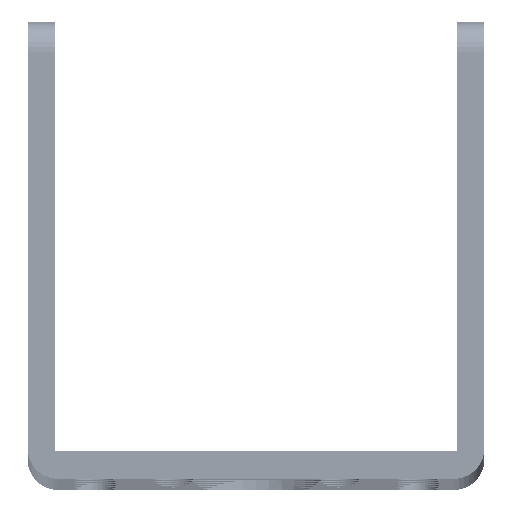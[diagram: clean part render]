
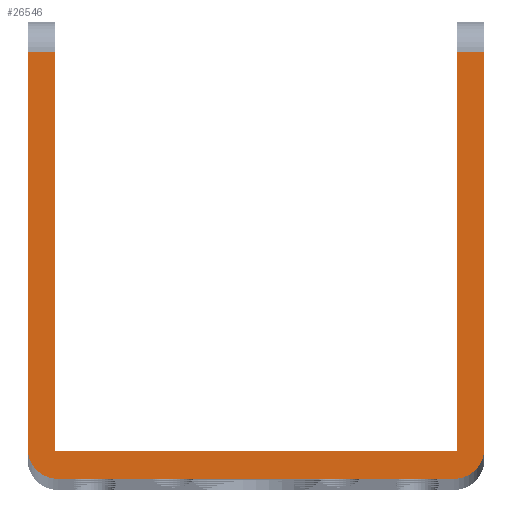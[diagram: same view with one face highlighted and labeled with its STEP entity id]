
A CAD part, top view. The second image highlights one B-rep face of the part: STEP entity #26546.
In plain terms, the highlighted planar face has unit normal (0, 0, 1).
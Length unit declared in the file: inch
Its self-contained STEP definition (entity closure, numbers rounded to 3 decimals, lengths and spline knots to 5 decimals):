
#946 = LINE ( 'NONE', #58074, #29640 ) ;
#5090 = DIRECTION ( 'NONE',  ( 0., 0., -1. ) ) ;
#5374 = DIRECTION ( 'NONE',  ( 0., 0., 1. ) ) ;
#5773 = EDGE_CURVE ( 'NONE', #55208, #34596, #946, .T. ) ;
#6357 = CARTESIAN_POINT ( 'NONE',  ( 1.5, 0.1, 21. ) ) ;
#7606 = CARTESIAN_POINT ( 'NONE',  ( 0.09, 1.5, 21. ) ) ;
#8667 = EDGE_LOOP ( 'NONE', ( #57736, #69993, #16738, #30517, #52957, #18252, #69269, #17002, #9202, #24030 ) ) ;
#9202 = ORIENTED_EDGE ( 'NONE', *, *, #69453, .T. ) ;
#10345 = DIRECTION ( 'NONE',  ( -1., 0., 0. ) ) ;
#10585 = CARTESIAN_POINT ( 'NONE',  ( 0., 0., 21. ) ) ;
#11185 = CARTESIAN_POINT ( 'NONE',  ( 1.4, 0.1, 21. ) ) ;
#14364 = EDGE_CURVE ( 'NONE', #58981, #44224, #36927, .T. ) ;
#14441 = AXIS2_PLACEMENT_3D ( 'NONE', #74320, #5374, #39676 ) ;
#15816 = CARTESIAN_POINT ( 'NONE',  ( 1.5, 0., 21. ) ) ;
#16738 = ORIENTED_EDGE ( 'NONE', *, *, #30750, .T. ) ;
#17002 = ORIENTED_EDGE ( 'NONE', *, *, #19647, .T. ) ;
#17591 = VECTOR ( 'NONE', #54202, 39.37008 ) ;
#18252 = ORIENTED_EDGE ( 'NONE', *, *, #41864, .T. ) ;
#19647 = EDGE_CURVE ( 'NONE', #34596, #60363, #44228, .T. ) ;
#19885 = VECTOR ( 'NONE', #58093, 39.37008 ) ;
#22107 = DIRECTION ( 'NONE',  ( 1., 0., 0. ) ) ;
#22765 = CARTESIAN_POINT ( 'NONE',  ( 1.41, 0.09, 21. ) ) ;
#23183 = CARTESIAN_POINT ( 'NONE',  ( 0.09, 0.09, 21. ) ) ;
#24030 = ORIENTED_EDGE ( 'NONE', *, *, #14364, .T. ) ;
#24352 = CARTESIAN_POINT ( 'NONE',  ( 1.41, 0.09, 21. ) ) ;
#24857 = VERTEX_POINT ( 'NONE', #71648 ) ;
#24977 = CIRCLE ( 'NONE', #42773, 0.1 ) ;
#26546 = ADVANCED_FACE ( 'NONE', ( #71513 ), #50195, .F. ) ;
#28322 = EDGE_CURVE ( 'NONE', #40145, #24857, #38050, .T. ) ;
#29467 = CARTESIAN_POINT ( 'NONE',  ( 1.41, 1.4, 21. ) ) ;
#29640 = VECTOR ( 'NONE', #58815, 39.37008 ) ;
#30245 = DIRECTION ( 'NONE',  ( 0., -1., 0. ) ) ;
#30517 = ORIENTED_EDGE ( 'NONE', *, *, #50655, .T. ) ;
#30750 = EDGE_CURVE ( 'NONE', #50057, #67944, #47638, .T. ) ;
#31540 = VECTOR ( 'NONE', #30245, 39.37008 ) ;
#34596 = VERTEX_POINT ( 'NONE', #44684 ) ;
#36927 = LINE ( 'NONE', #70123, #19885 ) ;
#38050 = LINE ( 'NONE', #15816, #65958 ) ;
#39676 = DIRECTION ( 'NONE',  ( -1., 0., 0. ) ) ;
#39983 = CARTESIAN_POINT ( 'NONE',  ( 0.09, 1.4, 21. ) ) ;
#40145 = VERTEX_POINT ( 'NONE', #50409 ) ;
#41696 = LINE ( 'NONE', #42623, #47974 ) ;
#41864 = EDGE_CURVE ( 'NONE', #24857, #55208, #24977, .T. ) ;
#41987 = CARTESIAN_POINT ( 'NONE',  ( 0., 0.1, 21. ) ) ;
#42623 = CARTESIAN_POINT ( 'NONE',  ( 0., 1.4, 21. ) ) ;
#42689 = EDGE_CURVE ( 'NONE', #44224, #66736, #43602, .T. ) ;
#42773 = AXIS2_PLACEMENT_3D ( 'NONE', #11185, #50832, #57314 ) ;
#43602 = LINE ( 'NONE', #7606, #17591 ) ;
#44224 = VERTEX_POINT ( 'NONE', #23183 ) ;
#44228 = LINE ( 'NONE', #60215, #73010 ) ;
#44684 = CARTESIAN_POINT ( 'NONE',  ( 1.5, 1.4, 21. ) ) ;
#47638 = LINE ( 'NONE', #52361, #31540 ) ;
#47974 = VECTOR ( 'NONE', #54188, 39.37008 ) ;
#50057 = VERTEX_POINT ( 'NONE', #73661 ) ;
#50127 = AXIS2_PLACEMENT_3D ( 'NONE', #10585, #5090, #10345 ) ;
#50195 = PLANE ( 'NONE',  #50127 ) ;
#50409 = CARTESIAN_POINT ( 'NONE',  ( 0.1, 0., 21. ) ) ;
#50562 = VECTOR ( 'NONE', #51851, 39.37008 ) ;
#50655 = EDGE_CURVE ( 'NONE', #67944, #40145, #60696, .T. ) ;
#50832 = DIRECTION ( 'NONE',  ( 0., 0., 1. ) ) ;
#51851 = DIRECTION ( 'NONE',  ( 0., -1., 0. ) ) ;
#52361 = CARTESIAN_POINT ( 'NONE',  ( 0., 0., 21. ) ) ;
#52957 = ORIENTED_EDGE ( 'NONE', *, *, #28322, .T. ) ;
#54188 = DIRECTION ( 'NONE',  ( -1., 0., 0. ) ) ;
#54202 = DIRECTION ( 'NONE',  ( 0., 1., 0. ) ) ;
#55208 = VERTEX_POINT ( 'NONE', #6357 ) ;
#57314 = DIRECTION ( 'NONE',  ( -1., 0., 0. ) ) ;
#57736 = ORIENTED_EDGE ( 'NONE', *, *, #42689, .T. ) ;
#58074 = CARTESIAN_POINT ( 'NONE',  ( 1.5, 1.5, 21. ) ) ;
#58093 = DIRECTION ( 'NONE',  ( -1., 0., 0. ) ) ;
#58815 = DIRECTION ( 'NONE',  ( 0., 1., 0. ) ) ;
#58981 = VERTEX_POINT ( 'NONE', #24352 ) ;
#59341 = EDGE_CURVE ( 'NONE', #66736, #50057, #41696, .T. ) ;
#60215 = CARTESIAN_POINT ( 'NONE',  ( 0., 1.4, 21. ) ) ;
#60363 = VERTEX_POINT ( 'NONE', #29467 ) ;
#60696 = CIRCLE ( 'NONE', #14441, 0.1 ) ;
#64910 = LINE ( 'NONE', #22765, #50562 ) ;
#65958 = VECTOR ( 'NONE', #22107, 39.37008 ) ;
#66736 = VERTEX_POINT ( 'NONE', #39983 ) ;
#66784 = DIRECTION ( 'NONE',  ( -1., 0., 0. ) ) ;
#67944 = VERTEX_POINT ( 'NONE', #41987 ) ;
#69269 = ORIENTED_EDGE ( 'NONE', *, *, #5773, .T. ) ;
#69453 = EDGE_CURVE ( 'NONE', #60363, #58981, #64910, .T. ) ;
#69993 = ORIENTED_EDGE ( 'NONE', *, *, #59341, .T. ) ;
#70123 = CARTESIAN_POINT ( 'NONE',  ( 0.09, 0.09, 21. ) ) ;
#71513 = FACE_OUTER_BOUND ( 'NONE', #8667, .T. ) ;
#71648 = CARTESIAN_POINT ( 'NONE',  ( 1.4, 0., 21. ) ) ;
#73010 = VECTOR ( 'NONE', #66784, 39.37008 ) ;
#73661 = CARTESIAN_POINT ( 'NONE',  ( 0., 1.4, 21. ) ) ;
#74320 = CARTESIAN_POINT ( 'NONE',  ( 0.1, 0.1, 21. ) ) ;
